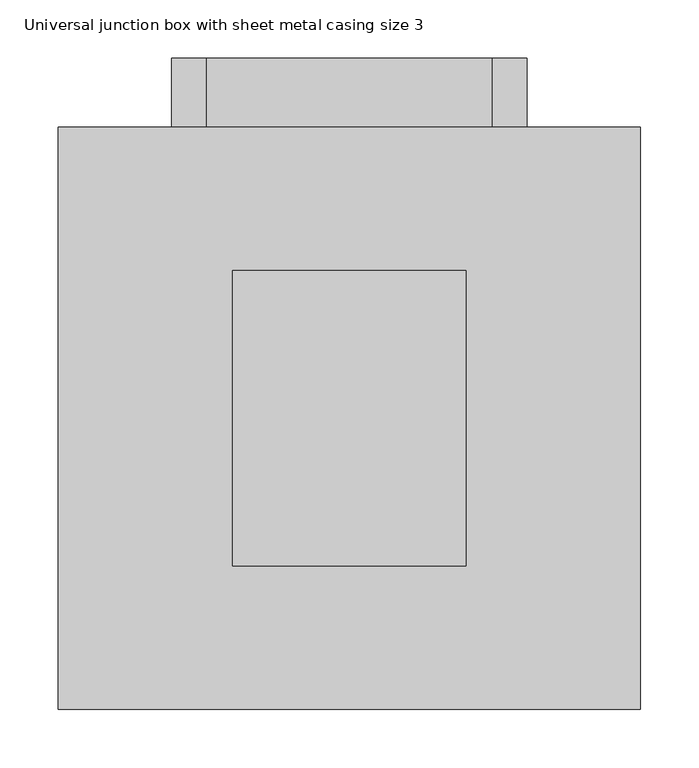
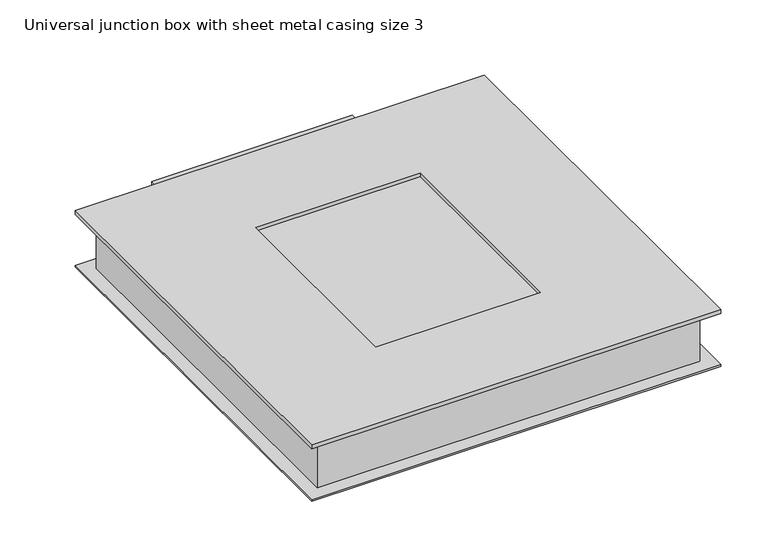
"""IFC4 building model written with IfcOpenShell, lengths in millimetres: cable carrier fitting geometry, Electrical-Installations_Hager_Universal-Junction-Box-With-Sheet-Metal-Casing-Size-3 : Universal junction box with sheet metal casing size 3."""

from ifc_helpers import new_model, si_unit, frame, origin, place, context, project, spatial, polyline, outline, extrude, faceted_brep, source, transform, mapped, element, save


def universal_junction_box_with_sheet_metal_casing_size_3_742ed20b(model_context):
    return source(origin(), model_context, "Body", "SolidModel", [
        extrude(outline(polyline([(-14.0, -152.0), (-14.0, -120.0), (14.0, -120.0), (14.0, 120.0), (-14.0, 120.0), (-14.0, 152.0), (-12.0, 152.0), (-12.0, 122.0), (16.0, 122.0), (16.0, -122.0), (-12.0, -122.0), (-12.0, -152.0), (-14.0, -152.0)])), frame((0.0, 249.0, 0.0), z_axis=(0.0, 1.0, 0.0), x_axis=(0.0, 0.0, 1.0)), (0.0, 0.0, 1.0), 59.0),
        faceted_brep([(-249.0, -249.0, 59.0), (249.0, -249.0, 59.0), (249.0, 249.0, 59.0), (-249.0, 249.0, 59.0), (-100.0, 126.5, 59.0), (100.0, 126.5, 59.0), (100.0, -126.5, 59.0), (-100.0, -126.5, 59.0), (-249.0, -249.0, 54.0), (-249.0, 249.0, 54.0), (249.0, 249.0, 54.0), (249.0, -249.0, 54.0), (227.0, 227.0, 54.0), (-227.0, 227.0, 54.0), (-227.0, -227.0, 54.0), (227.0, -227.0, 54.0), (-100.0, 126.5, 54.7820613), (100.0, 126.5, 54.7820613), (100.0, -126.5, 54.7820613), (-100.0, -126.5, 54.7820613), (227.0, 227.0, 54.7820613), (227.0, -227.0, 54.7820613), (-227.0, -227.0, 54.7820613), (-227.0, 227.0, 54.7820613)], [[[0, 1, 2, 3], [4, 5, 6, 7]], [[8, 9, 10, 11], [12, 13, 14, 15]], [[1, 0, 8, 11]], [[2, 1, 11, 10]], [[3, 2, 10, 9]], [[0, 3, 9, 8]], [[5, 4, 16, 17]], [[6, 5, 17, 18]], [[7, 6, 18, 19]], [[4, 7, 19, 16]], [[20, 21, 22, 23], [17, 16, 19, 18]], [[20, 23, 13, 12]], [[23, 22, 14, 13]], [[22, 21, 15, 14]], [[21, 20, 12, 15]]]),
        extrude(outline(polyline([(249.0, 249.0), (249.0, -249.0), (-249.0, -249.0), (-249.0, 249.0), (249.0, 249.0)])), frame((0.0, 0.0, -14.0), z_axis=(0.0, 0.0, 1.0), x_axis=(1.0, 0.0, 0.0)), (0.0, 0.0, 1.0), 2.0),
        faceted_brep([(-233.0, 233.0, 54.0), (-233.0, -233.0, 54.0), (233.0, -233.0, 54.0), (233.0, 233.0, 54.0), (-227.0, 227.0, 54.0), (227.0, 227.0, 54.0), (227.0, -227.0, 54.0), (-227.0, -227.0, 54.0), (-233.0, 233.0, -14.0), (233.0, 233.0, -14.0), (233.0, -233.0, -14.0), (-233.0, -233.0, -14.0), (227.0, 227.0, -6.1362798), (-227.0, 227.0, -6.1362798), (-227.0, -227.0, -6.1362798), (227.0, -227.0, -6.1362798)], [[[0, 1, 2, 3], [4, 5, 6, 7]], [[8, 9, 10, 11]], [[1, 0, 8, 11]], [[2, 1, 11, 10]], [[3, 2, 10, 9]], [[0, 3, 9, 8]], [[12, 13, 14, 15]], [[13, 12, 5, 4]], [[14, 13, 4, 7]], [[15, 14, 7, 6]], [[12, 15, 6, 5]]]),
    ])


if __name__ == "__main__":
    model = new_model("IFC4")
    model_context = context("Model", 3, world=origin())
    ifc_project = project(units=[si_unit("LENGTHUNIT", "METRE", prefix="MILLI")], contexts=[model_context])
    site = spatial("IfcSite", under=ifc_project)
    building = spatial("IfcBuilding", under=site)
    placement = place(None, origin())
    universal_junction_box_with_sheet_metal_casing_size_3_shape = universal_junction_box_with_sheet_metal_casing_size_3_742ed20b(model_context)
    element("IfcCableCarrierFitting", 1, ObjectType="Electrical-Installations_Hager_Universal-Junction-Box-With-Sheet-Metal-Casing-Size-3 : Universal junction box with sheet metal casing size 3", at=placement, inside=building, context=model_context, shape_type="MappedRepresentation", body=[
        mapped(universal_junction_box_with_sheet_metal_casing_size_3_shape, transform((0.0, 0.0, 0.0), x_axis=(1.0, 0.0, 0.0), y_axis=(0.0, 1.0, 0.0), z_axis=(0.0, 0.0, 1.0))),
    ])
    save(model, "model.ifc")
